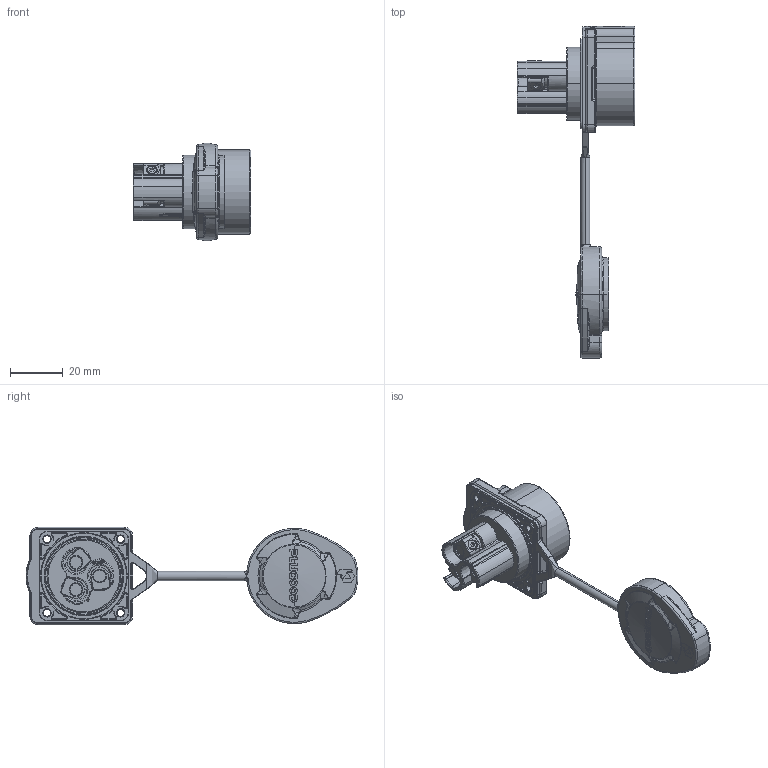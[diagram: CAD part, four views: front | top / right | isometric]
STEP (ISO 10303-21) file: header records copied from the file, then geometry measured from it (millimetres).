
FILE_DESCRIPTION (( 'STEP AP203' ), '1' );
FILE_NAME ('PLG28 3郋侐謂假蚾脣釱.STEP', '2025-08-21T02:07:00', ( '' ), ( '' ), 'SwSTEP 2.0', 'SolidWorks 2024', '' );
FILE_SCHEMA (( 'CONFIG_CONTROL_DESIGN' ));
Length unit declared in the file: millimetre
Products named in the file (1): PLG28 3芯四孔安装插座
Bounding box: 44.8 x 126.25 x 37 mm (x, y, z)
Volume: 27897.8 mm3; surface area: 19436.4 mm2
Topology: 11 solids, 18 shells, 1975 faces, 5040 edges, 3072 vertices
Faces by surface type: plane 584, cylinder 560, torus 439, bspline 292, cone 87, sphere 13
Entity records: 78991 total; most frequent: CARTESIAN_POINT 33486, ORIENTED_EDGE 10018, DIRECTION 9066, EDGE_CURVE 5009, AXIS2_PLACEMENT_3D 3695, VERTEX_POINT 3071, EDGE_LOOP 2126, CIRCLE 2011
